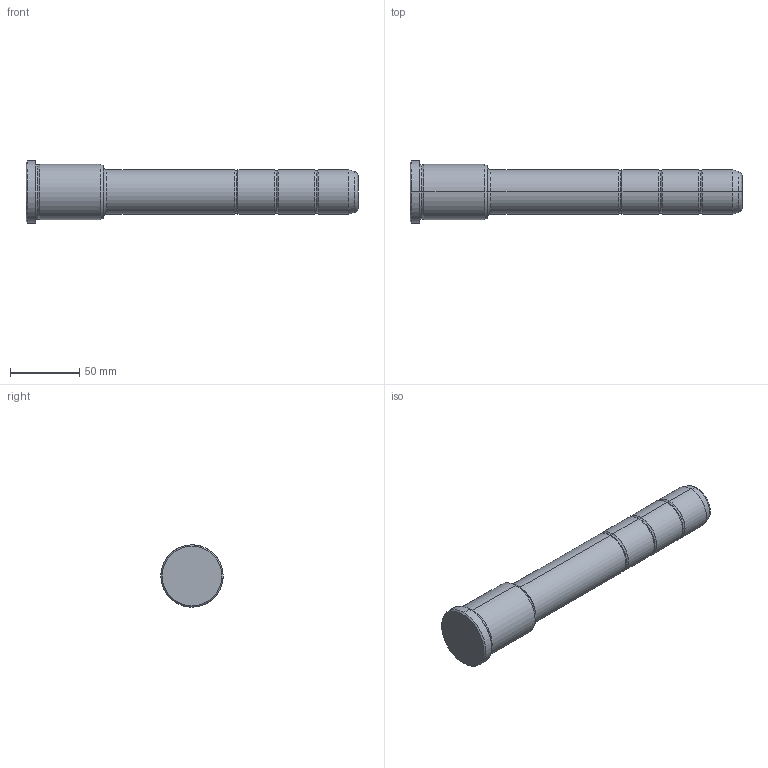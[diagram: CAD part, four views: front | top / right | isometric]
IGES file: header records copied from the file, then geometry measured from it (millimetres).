
Start section: START RECORD GO HERE.
Global section: file name: 351-32X56X240.igs; native system: DASSAULT SYSTEMES CATIA V5 R20 - www.3ds.com; preprocessor: CATIA Version 5 Release 20 ; author: Utente; organization: NB04-ASUS; date: 20210907.143215; units: millimetre
Bounding box: 240 x 45 x 45 mm (x, y, z)
Surface area: 28450.2 mm2 (no closed solid volume)
Topology: 0 solids, 0 shells, 42 faces, 236 edges, 236 vertices
Faces by surface type: revolution 38, plane 4
